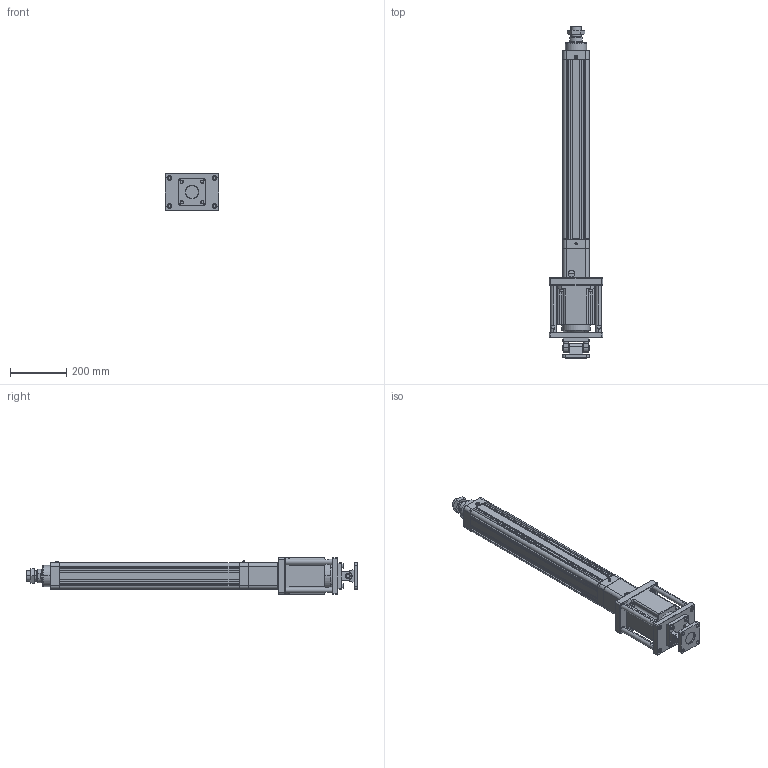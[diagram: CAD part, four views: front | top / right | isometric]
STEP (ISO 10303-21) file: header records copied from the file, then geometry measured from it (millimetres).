
FILE_DESCRIPTION((''),'2;1');
FILE_NAME('HE80-D-P_ASM','2020-05-14T',('ASUS20200'),(''),'CREO PARAMETRIC BY PTC INC, 2014190','CREO PARAMETRIC BY PTC INC, 2014190','');
FILE_SCHEMA(('CONFIG_CONTROL_DESIGN'));
Length unit declared in the file: millimetre
Products named in the file (29): HE80-D-P-001-X1; HE80-D-P-002-X1; HE80-D-P-003-X1; 30304J; YZ-M6X1; SLM-01; JDB506030; HE80-100-D-P-X1_ASM; HE80-D-009-X1; HE80-D-010-X1-130N; M10X110; SKT-20; M8X20; 130ST-M10010; JX6X6X40; TD-8; M8X40; HE80-D-P-005-X1; HE80-D-P-004-X1; HE80-D-P-008-X1; LGLM-M10-25; HE80-FB-LG; F-HE80FB; M10X30; F-SE80CB; F-SE80CB-XD; F-SE80CB_ASM; F-SE80CA; HE80-D-P_ASM
Assembly tree (59 placements, depth 3):
  HE80-D-P_ASM
    HE80-100-D-P-X1_ASM
      HE80-D-P-001-X1
      HE80-D-P-002-X1
      HE80-D-P-003-X1
      30304J  x2
      YZ-M6X1
      SLM-01
      JDB506030
    HE80-D-009-X1
    HE80-D-010-X1-130N
    M10X110  x4
    SKT-20  x2
    M8X20  x4
    130ST-M10010
    JX6X6X40
    TD-8  x4
    M8X40  x4
    HE80-D-P-005-X1
    HE80-D-P-004-X1
    HE80-D-P-008-X1
    LGLM-M10-25  x4
    HE80-FB-LG  x4
    F-HE80FB
    M10X30  x12
    F-SE80CB_ASM
      F-SE80CB
      F-SE80CB-XD
    F-SE80CA
Bounding box: 190 x 1179 x 130.01 mm (x, y, z)
Volume: 6634600.1 mm3; surface area: 1444754.8 mm2
Topology: 57 solids, 92 shells, 2791 faces, 6372 edges, 3818 vertices
Faces by surface type: plane 972, cone 848, cylinder 791, torus 146, sphere 30, bspline 4
Entity records: 60365 total; most frequent: CARTESIAN_POINT 11254, DIRECTION 10959, ORIENTED_EDGE 9418, EDGE_CURVE 4764, AXIS2_PLACEMENT_3D 4244, VERTEX_POINT 2850, VECTOR 2471, LINE 2471
